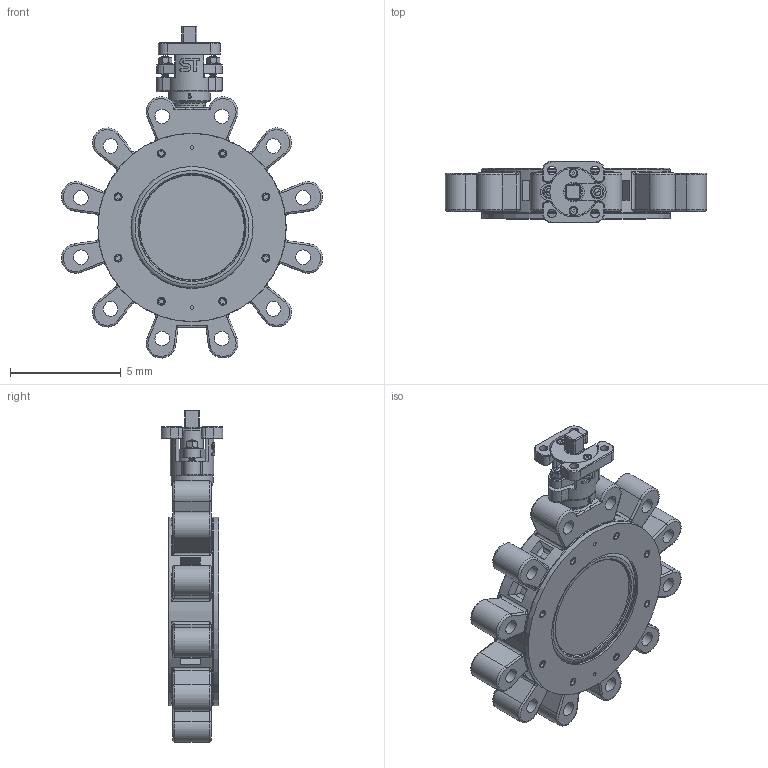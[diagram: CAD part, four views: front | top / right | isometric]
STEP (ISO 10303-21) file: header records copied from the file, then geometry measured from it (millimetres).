
FILE_DESCRIPTION(('Open CASCADE Model'),'2;1');
FILE_NAME('Open CASCADE Shape Model','2022-07-22T11:42:57',('Author'),( 'Open CASCADE'),'Open CASCADE STEP processor 7.3','Open CASCADE 7.3' ,'Unknown');
FILE_SCHEMA(('AUTOMOTIVE_DESIGN { 1 0 10303 214 1 1 1 1 }'));
Length unit declared in the file: millimetre
Products named in the file (32): Open CASCADE STEP translator 7.3 1; Open CASCADE STEP translator 7.3 1.1; Open CASCADE STEP translator 7.3 1.2; Open CASCADE STEP translator 7.3 1.3; Open CASCADE STEP translator 7.3 1.4; Open CASCADE STEP translator 7.3 1.5; Open CASCADE STEP translator 7.3 1.6; Open CASCADE STEP translator 7.3 1.7; Open CASCADE STEP translator 7.3 1.8; Open CASCADE STEP translator 7.3 1.9; Open CASCADE STEP translator 7.3 1.10; Open CASCADE STEP translator 7.3 1.11; Open CASCADE STEP translator 7.3 1.12; Open CASCADE STEP translator 7.3 1.13; Open CASCADE STEP translator 7.3 1.14; Open CASCADE STEP translator 7.3 1.15; Open CASCADE STEP translator 7.3 1.16; Open CASCADE STEP translator 7.3 1.17; Open CASCADE STEP translator 7.3 1.18; Open CASCADE STEP translator 7.3 1.19; Open CASCADE STEP translator 7.3 1.20; Open CASCADE STEP translator 7.3 1.21; Open CASCADE STEP translator 7.3 1.22; Open CASCADE STEP translator 7.3 1.23; Open CASCADE STEP translator 7.3 1.24; Open CASCADE STEP translator 7.3 1.25; Open CASCADE STEP translator 7.3 1.26; Open CASCADE STEP translator 7.3 1.27; Open CASCADE STEP translator 7.3 1.28; Open CASCADE STEP translator 7.3 1.29; Open CASCADE STEP translator 7.3 1.30; Open CASCADE STEP translator 7.3 1.31
Assembly tree (31 placements, depth 2):
  Open CASCADE STEP translator 7.3 1
    Open CASCADE STEP translator 7.3 1.1
    Open CASCADE STEP translator 7.3 1.2
    Open CASCADE STEP translator 7.3 1.3
    Open CASCADE STEP translator 7.3 1.4
    Open CASCADE STEP translator 7.3 1.5
    Open CASCADE STEP translator 7.3 1.6
    Open CASCADE STEP translator 7.3 1.7
    Open CASCADE STEP translator 7.3 1.8
    Open CASCADE STEP translator 7.3 1.9
    Open CASCADE STEP translator 7.3 1.10
    Open CASCADE STEP translator 7.3 1.11
    Open CASCADE STEP translator 7.3 1.12
    Open CASCADE STEP translator 7.3 1.13
    Open CASCADE STEP translator 7.3 1.14
    Open CASCADE STEP translator 7.3 1.15
    Open CASCADE STEP translator 7.3 1.16
    Open CASCADE STEP translator 7.3 1.17
    Open CASCADE STEP translator 7.3 1.18
    Open CASCADE STEP translator 7.3 1.19
    Open CASCADE STEP translator 7.3 1.20
    Open CASCADE STEP translator 7.3 1.21
    Open CASCADE STEP translator 7.3 1.22
    Open CASCADE STEP translator 7.3 1.23
    Open CASCADE STEP translator 7.3 1.24
    Open CASCADE STEP translator 7.3 1.25
    Open CASCADE STEP translator 7.3 1.26
    Open CASCADE STEP translator 7.3 1.27
    Open CASCADE STEP translator 7.3 1.28
    Open CASCADE STEP translator 7.3 1.29
    Open CASCADE STEP translator 7.3 1.30
    Open CASCADE STEP translator 7.3 1.31
Bounding box: 11.8 x 2.8 x 15.01 mm (x, y, z)
Volume: 128.5 mm3; surface area: 692.2 mm2
Topology: 31 solids, 31 shells, 991 faces, 2287 edges, 1416 vertices
Faces by surface type: plane 383, cylinder 302, cone 127, torus 115, bspline 59, sphere 5
Full cylindrical faces by diameter (mm): 0.163 x2, 0.165 x2, 0.197 x2, 0.217 x16, 0.236 x4, 0.315 x8, 0.355 x16, 0.394 x8, 0.66 x12, 0.749 x1, 0.867 x1, 0.879 x1, 0.906 x1, 1.001 x7, 1.02 x1, 1.064 x2, 1.324 x2, 1.34 x4, 1.891 x1, 5.516 x1, 5.681 x1, 5.697 x1, 5.745 x1, 5.989 x1, 6.028 x1, 6.178 x1, 6.186 x1, 6.225 x1, 6.304 x1, 6.343 x1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
Entity records: 116618 total; most frequent: CARTESIAN_POINT 70886, DIRECTION 8370, ORIENTED_EDGE 4532, PCURVE 4532, DEFINITIONAL_REPRESENTATION 4532, LINE 4025, VECTOR 4025, EDGE_CURVE 2266
